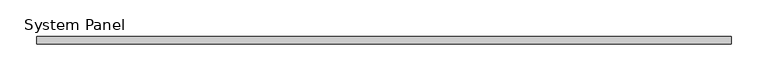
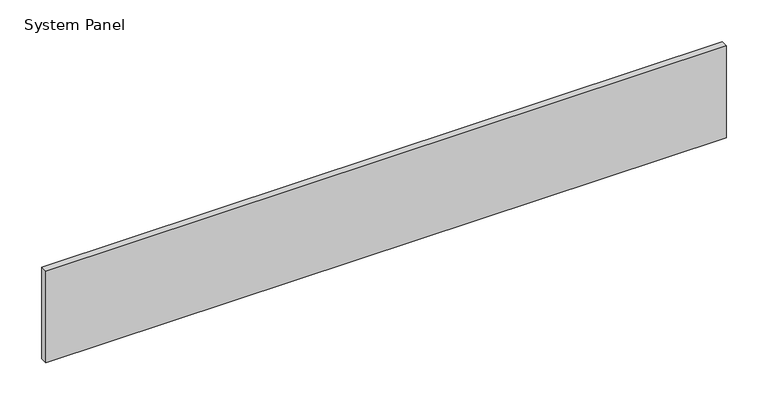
"""IFC4 building model written with IfcOpenShell, lengths in millimetres: plate geometry, System Panel : VACÍO."""

from ifc_helpers import new_model, si_unit, origin, origin_with_axes, place, context, project, spatial, polyline, outline, extrude, source, transform, mapped, element, save


def system_panel_2c501d8c(model_context):
    return source(origin(), model_context, "Body", "SweptSolid", [
        extrude(outline(polyline([(470.6021733, -5.0), (-470.6021733, -5.0), (-470.6021733, 5.0), (470.6021733, 5.0), (470.6021733, -5.0)])), origin_with_axes(), (0.0, 0.0, 1.0), 134.0),
    ])


if __name__ == "__main__":
    model = new_model("IFC4")
    model_context = context("Model", 3, world=origin())
    ifc_project = project(units=[si_unit("LENGTHUNIT", "METRE", prefix="MILLI")], contexts=[model_context])
    site = spatial("IfcSite", under=ifc_project)
    building = spatial("IfcBuilding", under=site)
    placement = place(None, origin())
    system_panel_shape = system_panel_2c501d8c(model_context)
    element("IfcPlate", 1, ObjectType="System Panel : VACÍO", at=placement, inside=building, context=model_context, shape_type="MappedRepresentation", body=[
        mapped(system_panel_shape, transform((0.0, 0.0, 0.0), x_axis=(1.0, 0.0, 0.0), y_axis=(0.0, 1.0, 0.0), z_axis=(0.0, 0.0, 1.0))),
    ])
    save(model, "model.ifc")
